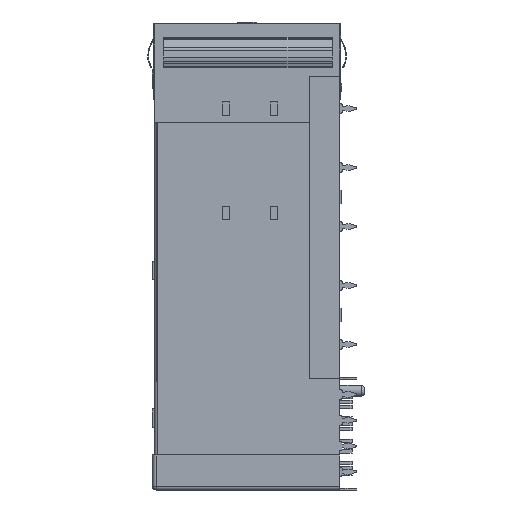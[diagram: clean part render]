
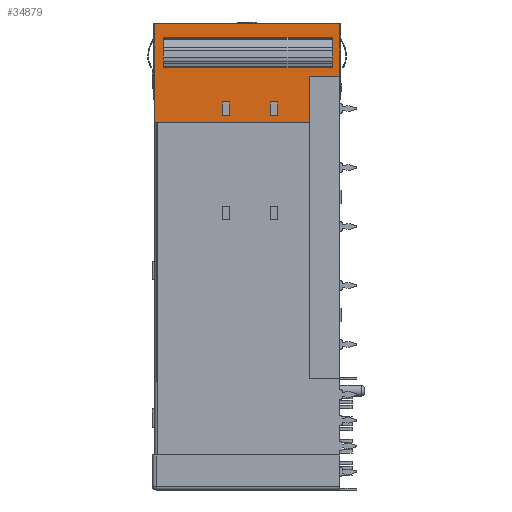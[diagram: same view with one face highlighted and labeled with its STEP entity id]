
A CAD part, left-side view. The second image highlights one B-rep face of the part: STEP entity #34879.
In plain terms, the highlighted planar face has unit normal (-1, 0, 0).
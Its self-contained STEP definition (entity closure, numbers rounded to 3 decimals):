
#51 = CARTESIAN_POINT ( 'NONE',  ( -28.75, 23.95, -1.9 ) ) ;
#293 = EDGE_CURVE ( 'NONE', #37801, #69930, #53801, .T. ) ;
#928 = CARTESIAN_POINT ( 'NONE',  ( -28.75, 15., 0. ) ) ;
#1167 = DIRECTION ( 'NONE',  ( 0., -1., 0. ) ) ;
#1228 = VERTEX_POINT ( 'NONE', #12541 ) ;
#1456 = CARTESIAN_POINT ( 'NONE',  ( -28.75, 4.1, -7.1 ) ) ;
#1688 = VERTEX_POINT ( 'NONE', #25368 ) ;
#2236 = DIRECTION ( 'NONE',  ( 0., -1., 0. ) ) ;
#2775 = LINE ( 'NONE', #44867, #60989 ) ;
#2999 = CARTESIAN_POINT ( 'NONE',  ( -28.75, 25.1, 0. ) ) ;
#3589 = FACE_OUTER_BOUND ( 'NONE', #67229, .T. ) ;
#5013 = LINE ( 'NONE', #93276, #43062 ) ;
#6123 = VECTOR ( 'NONE', #85135, 1000. ) ;
#6670 = ORIENTED_EDGE ( 'NONE', *, *, #47065, .T. ) ;
#7831 = LINE ( 'NONE', #11698, #45895 ) ;
#8523 = LINE ( 'NONE', #31907, #6123 ) ;
#8690 = DIRECTION ( 'NONE',  ( 0., 0., 1. ) ) ;
#8755 = CARTESIAN_POINT ( 'NONE',  ( -28.75, 25.2, -13.4 ) ) ;
#10220 = LINE ( 'NONE', #38395, #28005 ) ;
#10591 = DIRECTION ( 'NONE',  ( 0., 0., -1. ) ) ;
#11032 = EDGE_CURVE ( 'NONE', #26593, #1228, #2775, .T. ) ;
#11291 = VECTOR ( 'NONE', #54070, 1000. ) ;
#11698 = CARTESIAN_POINT ( 'NONE',  ( -28.75, 9.45, 0. ) ) ;
#11928 = ORIENTED_EDGE ( 'NONE', *, *, #39325, .T. ) ;
#12175 = VERTEX_POINT ( 'NONE', #28957 ) ;
#12541 = CARTESIAN_POINT ( 'NONE',  ( -28.75, 15., -10.6 ) ) ;
#13949 = CARTESIAN_POINT ( 'NONE',  ( -28.75, 9.45, -12.4 ) ) ;
#14340 = EDGE_CURVE ( 'NONE', #83058, #12175, #77114, .T. ) ;
#15039 = DIRECTION ( 'NONE',  ( 0., 1., 0. ) ) ;
#15346 = ORIENTED_EDGE ( 'NONE', *, *, #45862, .T. ) ;
#15378 = CARTESIAN_POINT ( 'NONE',  ( -28.75, 4.1, 0. ) ) ;
#15385 = ORIENTED_EDGE ( 'NONE', *, *, #11032, .T. ) ;
#16052 = AXIS2_PLACEMENT_3D ( 'NONE', #18440, #26051, #79300 ) ;
#16120 = VECTOR ( 'NONE', #23001, 1000. ) ;
#18440 = CARTESIAN_POINT ( 'NONE',  ( -28.75, 0., 0. ) ) ;
#18835 = ORIENTED_EDGE ( 'NONE', *, *, #65326, .T. ) ;
#20000 = VERTEX_POINT ( 'NONE', #49792 ) ;
#21562 = EDGE_LOOP ( 'NONE', ( #63612, #18835, #34053, #15346 ) ) ;
#23001 = DIRECTION ( 'NONE',  ( 0., 0., 1. ) ) ;
#23521 = CARTESIAN_POINT ( 'NONE',  ( -28.75, 15., -12.4 ) ) ;
#23661 = VECTOR ( 'NONE', #64582, 1000. ) ;
#23751 = FACE_BOUND ( 'NONE', #49075, .T. ) ;
#24089 = VERTEX_POINT ( 'NONE', #1456 ) ;
#24454 = VERTEX_POINT ( 'NONE', #97373 ) ;
#24826 = ORIENTED_EDGE ( 'NONE', *, *, #42809, .F. ) ;
#25140 = CARTESIAN_POINT ( 'NONE',  ( -28.75, 4.1, -13.4 ) ) ;
#25368 = CARTESIAN_POINT ( 'NONE',  ( -28.75, 23.95, -2.181 ) ) ;
#25757 = DIRECTION ( 'NONE',  ( 0., -1., 0. ) ) ;
#26051 = DIRECTION ( 'NONE',  ( 1., 0., 0. ) ) ;
#26593 = VERTEX_POINT ( 'NONE', #50461 ) ;
#27488 = DIRECTION ( 'NONE',  ( 0., 1., 0. ) ) ;
#27924 = CARTESIAN_POINT ( 'NONE',  ( -28.75, 1.05, -1.9 ) ) ;
#28005 = VECTOR ( 'NONE', #53702, 1000. ) ;
#28659 = VERTEX_POINT ( 'NONE', #51 ) ;
#28733 = VECTOR ( 'NONE', #1167, 1000. ) ;
#28957 = CARTESIAN_POINT ( 'NONE',  ( -28.75, 0.1, 0. ) ) ;
#29417 = ORIENTED_EDGE ( 'NONE', *, *, #66555, .T. ) ;
#30090 = CARTESIAN_POINT ( 'NONE',  ( -28.75, 8.45, -12.4 ) ) ;
#30533 = VERTEX_POINT ( 'NONE', #23521 ) ;
#31256 = CARTESIAN_POINT ( 'NONE',  ( -28.75, 16., 0. ) ) ;
#31272 = ORIENTED_EDGE ( 'NONE', *, *, #54612, .T. ) ;
#31715 = CARTESIAN_POINT ( 'NONE',  ( -28.75, 16., -12.4 ) ) ;
#31907 = CARTESIAN_POINT ( 'NONE',  ( -28.75, 1.05, -2.181 ) ) ;
#32247 = EDGE_CURVE ( 'NONE', #12175, #92236, #89633, .T. ) ;
#33670 = ORIENTED_EDGE ( 'NONE', *, *, #87933, .T. ) ;
#34053 = ORIENTED_EDGE ( 'NONE', *, *, #58750, .T. ) ;
#34237 = VECTOR ( 'NONE', #10591, 1000. ) ;
#34601 = VERTEX_POINT ( 'NONE', #30090 ) ;
#34879 = ADVANCED_FACE ( 'NONE', ( #48789, #23751, #64231, #3589 ), #63998, .F. ) ;
#37801 = VERTEX_POINT ( 'NONE', #51488 ) ;
#38337 = VECTOR ( 'NONE', #81168, 1000. ) ;
#38395 = CARTESIAN_POINT ( 'NONE',  ( -28.75, 8.45, 0. ) ) ;
#39031 = VECTOR ( 'NONE', #62176, 1000. ) ;
#39325 = EDGE_CURVE ( 'NONE', #57639, #26593, #51037, .T. ) ;
#40096 = ORIENTED_EDGE ( 'NONE', *, *, #45627, .T. ) ;
#42616 = EDGE_CURVE ( 'NONE', #52550, #51724, #7831, .T. ) ;
#42809 = EDGE_CURVE ( 'NONE', #28659, #1688, #69637, .T. ) ;
#43062 = VECTOR ( 'NONE', #2236, 1000. ) ;
#44867 = CARTESIAN_POINT ( 'NONE',  ( -28.75, 0., -10.6 ) ) ;
#45627 = EDGE_CURVE ( 'NONE', #24454, #1688, #8523, .T. ) ;
#45814 = ORIENTED_EDGE ( 'NONE', *, *, #46391, .T. ) ;
#45862 = EDGE_CURVE ( 'NONE', #34601, #52550, #88136, .T. ) ;
#45895 = VECTOR ( 'NONE', #87801, 1000. ) ;
#46391 = EDGE_CURVE ( 'NONE', #24089, #83058, #78567, .T. ) ;
#46865 = VECTOR ( 'NONE', #81955, 1000. ) ;
#47006 = LINE ( 'NONE', #928, #11291 ) ;
#47065 = EDGE_CURVE ( 'NONE', #20000, #24454, #77220, .T. ) ;
#48789 = FACE_BOUND ( 'NONE', #21562, .T. ) ;
#49075 = EDGE_LOOP ( 'NONE', ( #11928, #15385, #33670, #31272 ) ) ;
#49300 = CARTESIAN_POINT ( 'NONE',  ( -28.75, 1.05, -1.9 ) ) ;
#49792 = CARTESIAN_POINT ( 'NONE',  ( -28.75, 1.05, -1.9 ) ) ;
#50171 = CARTESIAN_POINT ( 'NONE',  ( -28.75, 0., -12.4 ) ) ;
#50461 = CARTESIAN_POINT ( 'NONE',  ( -28.75, 16., -10.6 ) ) ;
#51037 = LINE ( 'NONE', #31256, #68876 ) ;
#51488 = CARTESIAN_POINT ( 'NONE',  ( -28.75, 25.1, -13.4 ) ) ;
#51724 = VERTEX_POINT ( 'NONE', #94279 ) ;
#51946 = CARTESIAN_POINT ( 'NONE',  ( -28.75, 8.45, -10.6 ) ) ;
#52166 = DIRECTION ( 'NONE',  ( 0., -1., 0. ) ) ;
#52550 = VERTEX_POINT ( 'NONE', #13949 ) ;
#53702 = DIRECTION ( 'NONE',  ( 0., 0., -1. ) ) ;
#53801 = LINE ( 'NONE', #8755, #28733 ) ;
#54070 = DIRECTION ( 'NONE',  ( 0., 0., -1. ) ) ;
#54181 = VECTOR ( 'NONE', #74833, 1000. ) ;
#54568 = CARTESIAN_POINT ( 'NONE',  ( -28.75, 0.1, 0. ) ) ;
#54612 = EDGE_CURVE ( 'NONE', #30533, #57639, #83566, .T. ) ;
#57639 = VERTEX_POINT ( 'NONE', #31715 ) ;
#58535 = LINE ( 'NONE', #27924, #38337 ) ;
#58750 = EDGE_CURVE ( 'NONE', #62797, #34601, #10220, .T. ) ;
#60572 = CARTESIAN_POINT ( 'NONE',  ( -28.75, 0., -12.4 ) ) ;
#60989 = VECTOR ( 'NONE', #52166, 1000. ) ;
#62176 = DIRECTION ( 'NONE',  ( 0., 0., 1. ) ) ;
#62797 = VERTEX_POINT ( 'NONE', #51946 ) ;
#63338 = VECTOR ( 'NONE', #15039, 1000. ) ;
#63612 = ORIENTED_EDGE ( 'NONE', *, *, #42616, .T. ) ;
#63707 = CARTESIAN_POINT ( 'NONE',  ( -28.75, 0., -7.1 ) ) ;
#63998 = PLANE ( 'NONE',  #16052 ) ;
#64231 = FACE_BOUND ( 'NONE', #95551, .T. ) ;
#64582 = DIRECTION ( 'NONE',  ( 0., 0., -1. ) ) ;
#65326 = EDGE_CURVE ( 'NONE', #51724, #62797, #5013, .T. ) ;
#65557 = VECTOR ( 'NONE', #27488, 1000. ) ;
#66523 = ORIENTED_EDGE ( 'NONE', *, *, #90577, .F. ) ;
#66555 = EDGE_CURVE ( 'NONE', #92236, #37801, #94964, .T. ) ;
#67229 = EDGE_LOOP ( 'NONE', ( #80240, #45814, #77175, #91027, #29417, #71286 ) ) ;
#68876 = VECTOR ( 'NONE', #8690, 1000. ) ;
#69637 = LINE ( 'NONE', #97763, #54181 ) ;
#69930 = VERTEX_POINT ( 'NONE', #25140 ) ;
#70809 = CARTESIAN_POINT ( 'NONE',  ( -28.75, 0.1, -7.1 ) ) ;
#71286 = ORIENTED_EDGE ( 'NONE', *, *, #293, .T. ) ;
#73969 = CARTESIAN_POINT ( 'NONE',  ( -28.75, 25.3, 0. ) ) ;
#74833 = DIRECTION ( 'NONE',  ( 0., 0., -1. ) ) ;
#76831 = LINE ( 'NONE', #15378, #16120 ) ;
#77114 = LINE ( 'NONE', #54568, #39031 ) ;
#77175 = ORIENTED_EDGE ( 'NONE', *, *, #14340, .T. ) ;
#77220 = LINE ( 'NONE', #49300, #23661 ) ;
#78567 = LINE ( 'NONE', #63707, #96385 ) ;
#79300 = DIRECTION ( 'NONE',  ( 0., 0., -1. ) ) ;
#79747 = EDGE_CURVE ( 'NONE', #69930, #24089, #76831, .T. ) ;
#80240 = ORIENTED_EDGE ( 'NONE', *, *, #79747, .T. ) ;
#81168 = DIRECTION ( 'NONE',  ( 0., 1., 0. ) ) ;
#81955 = DIRECTION ( 'NONE',  ( 0., 1., 0. ) ) ;
#83058 = VERTEX_POINT ( 'NONE', #70809 ) ;
#83566 = LINE ( 'NONE', #60572, #63338 ) ;
#85135 = DIRECTION ( 'NONE',  ( 0., 1., 0. ) ) ;
#87801 = DIRECTION ( 'NONE',  ( 0., 0., 1. ) ) ;
#87933 = EDGE_CURVE ( 'NONE', #1228, #30533, #47006, .T. ) ;
#88136 = LINE ( 'NONE', #50171, #65557 ) ;
#89633 = LINE ( 'NONE', #73969, #46865 ) ;
#90577 = EDGE_CURVE ( 'NONE', #20000, #28659, #58535, .T. ) ;
#91027 = ORIENTED_EDGE ( 'NONE', *, *, #32247, .T. ) ;
#92173 = CARTESIAN_POINT ( 'NONE',  ( -28.75, 25.1, 0. ) ) ;
#92236 = VERTEX_POINT ( 'NONE', #92173 ) ;
#93276 = CARTESIAN_POINT ( 'NONE',  ( -28.75, 0., -10.6 ) ) ;
#94279 = CARTESIAN_POINT ( 'NONE',  ( -28.75, 9.45, -10.6 ) ) ;
#94964 = LINE ( 'NONE', #2999, #34237 ) ;
#95551 = EDGE_LOOP ( 'NONE', ( #66523, #6670, #40096, #24826 ) ) ;
#96385 = VECTOR ( 'NONE', #25757, 1000. ) ;
#97373 = CARTESIAN_POINT ( 'NONE',  ( -28.75, 1.05, -2.181 ) ) ;
#97763 = CARTESIAN_POINT ( 'NONE',  ( -28.75, 23.95, -1.9 ) ) ;
